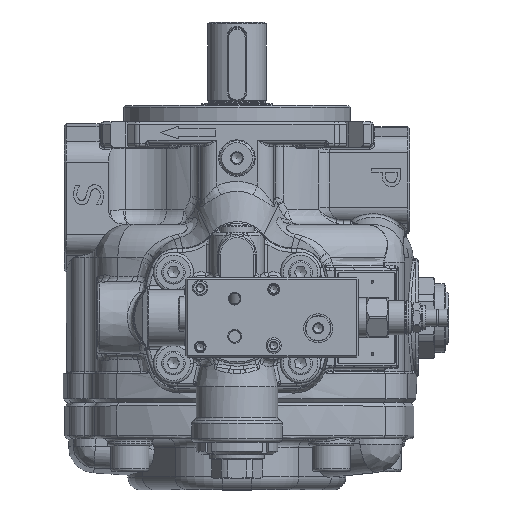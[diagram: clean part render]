
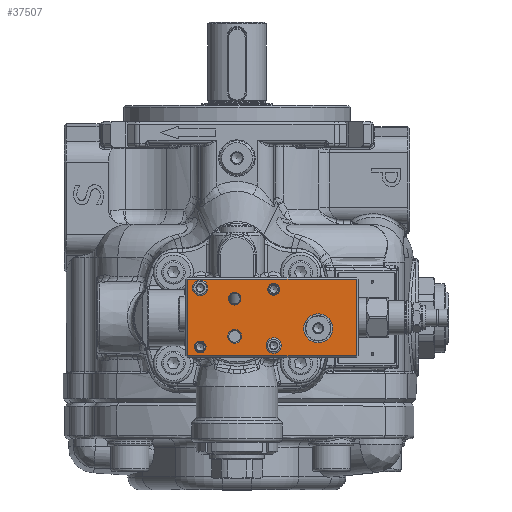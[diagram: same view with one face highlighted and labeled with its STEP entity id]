
A CAD part, top view. The second image highlights one B-rep face of the part: STEP entity #37507.
In plain terms, the highlighted planar face has unit normal (0, 0, 1).
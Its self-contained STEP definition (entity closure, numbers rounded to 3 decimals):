
#1602=FACE_BOUND('',#9343,.T.);
#1603=FACE_BOUND('',#9344,.T.);
#1604=FACE_BOUND('',#9345,.T.);
#1605=FACE_BOUND('',#9346,.T.);
#1606=FACE_BOUND('',#9347,.T.);
#1607=FACE_BOUND('',#9348,.T.);
#1608=FACE_BOUND('',#9349,.T.);
#1914=LINE('',#54981,#4112);
#1915=LINE('',#54983,#4113);
#1916=LINE('',#54985,#4114);
#1917=LINE('',#54986,#4115);
#4112=VECTOR('',#44577,10.);
#4113=VECTOR('',#44578,10.);
#4114=VECTOR('',#44579,10.);
#4115=VECTOR('',#44580,10.);
#6217=PLANE('',#39996);
#7104=FACE_OUTER_BOUND('',#9342,.T.);
#9342=EDGE_LOOP('',(#24690,#24691,#24692,#24693));
#9343=EDGE_LOOP('',(#24694));
#9344=EDGE_LOOP('',(#24695));
#9345=EDGE_LOOP('',(#24696));
#9346=EDGE_LOOP('',(#24697));
#9347=EDGE_LOOP('',(#24698,#24699));
#9348=EDGE_LOOP('',(#24700));
#9349=EDGE_LOOP('',(#24701));
#11493=B_SPLINE_CURVE_WITH_KNOTS('',3,(#54998,#54999,#55000,#55001,#55002,
#55003,#55004,#55005,#55006,#55007,#55008,#55009,#55010,#55011,#55012,#55013,
#55014,#55015,#55016,#55017),.UNSPECIFIED.,.T.,.F.,(4,1,1,1,1,1,1,1,1,1,
1,1,1,1,1,1,1,4),(-2.153,-2.134,-2.077,
-2.,-1.923,-1.846,-1.73,
-1.538,-1.384,-1.231,-0.923,
-0.718,-0.538,-0.308,-0.231,
-0.154,-0.077,0.),.UNSPECIFIED.);
#12449=CIRCLE('',#39570,4.25);
#12687=CIRCLE('',#39997,4.25);
#12688=CIRCLE('',#39998,3.25);
#12689=CIRCLE('',#39999,3.25);
#12690=CIRCLE('',#40000,8.);
#12691=CIRCLE('',#40001,8.);
#12692=CIRCLE('',#40002,3.75);
#14558=VERTEX_POINT('',#53667);
#14915=VERTEX_POINT('',#54979);
#14916=VERTEX_POINT('',#54980);
#14917=VERTEX_POINT('',#54982);
#14918=VERTEX_POINT('',#54984);
#14919=VERTEX_POINT('',#54987);
#14920=VERTEX_POINT('',#54989);
#14921=VERTEX_POINT('',#54991);
#14922=VERTEX_POINT('',#54993);
#14923=VERTEX_POINT('',#54994);
#14924=VERTEX_POINT('',#54997);
#14925=VERTEX_POINT('',#55018);
#18095=EDGE_CURVE('',#14558,#14558,#12449,.T.);
#18601=EDGE_CURVE('',#14915,#14916,#1914,.T.);
#18602=EDGE_CURVE('',#14917,#14915,#1915,.T.);
#18603=EDGE_CURVE('',#14918,#14917,#1916,.T.);
#18604=EDGE_CURVE('',#14916,#14918,#1917,.T.);
#18605=EDGE_CURVE('',#14919,#14919,#12687,.T.);
#18606=EDGE_CURVE('',#14920,#14920,#12688,.T.);
#18607=EDGE_CURVE('',#14921,#14921,#12689,.T.);
#18608=EDGE_CURVE('',#14922,#14923,#12690,.T.);
#18609=EDGE_CURVE('',#14923,#14922,#12691,.T.);
#18610=EDGE_CURVE('',#14924,#14924,#11493,.T.);
#18611=EDGE_CURVE('',#14925,#14925,#12692,.T.);
#24690=ORIENTED_EDGE('',*,*,#18601,.F.);
#24691=ORIENTED_EDGE('',*,*,#18602,.F.);
#24692=ORIENTED_EDGE('',*,*,#18603,.F.);
#24693=ORIENTED_EDGE('',*,*,#18604,.F.);
#24694=ORIENTED_EDGE('',*,*,#18605,.T.);
#24695=ORIENTED_EDGE('',*,*,#18095,.T.);
#24696=ORIENTED_EDGE('',*,*,#18606,.F.);
#24697=ORIENTED_EDGE('',*,*,#18607,.F.);
#24698=ORIENTED_EDGE('',*,*,#18608,.T.);
#24699=ORIENTED_EDGE('',*,*,#18609,.T.);
#24700=ORIENTED_EDGE('',*,*,#18610,.F.);
#24701=ORIENTED_EDGE('',*,*,#18611,.F.);
#37507=ADVANCED_FACE('',(#7104,#1602,#1603,#1604,#1605,#1606,#1607,#1608),
#6217,.T.);
#39570=AXIS2_PLACEMENT_3D('',#53669,#43544,#43545);
#39996=AXIS2_PLACEMENT_3D('',#54978,#44575,#44576);
#39997=AXIS2_PLACEMENT_3D('',#54988,#44581,#44582);
#39998=AXIS2_PLACEMENT_3D('',#54990,#44583,#44584);
#39999=AXIS2_PLACEMENT_3D('',#54992,#44585,#44586);
#40000=AXIS2_PLACEMENT_3D('',#54995,#44587,#44588);
#40001=AXIS2_PLACEMENT_3D('',#54996,#44589,#44590);
#40002=AXIS2_PLACEMENT_3D('',#55019,#44591,#44592);
#43544=DIRECTION('center_axis',(0.,0.,
-1.));
#43545=DIRECTION('ref_axis',(1.,0.,0.));
#44575=DIRECTION('center_axis',(0.,0.,
1.));
#44576=DIRECTION('ref_axis',(-1.,0.,0.));
#44577=DIRECTION('',(-1.,0.,0.));
#44578=DIRECTION('',(0.,-1.,0.));
#44579=DIRECTION('',(1.,0.,0.));
#44580=DIRECTION('',(0.,1.,0.));
#44581=DIRECTION('center_axis',(0.,0.,
-1.));
#44582=DIRECTION('ref_axis',(1.,0.,0.));
#44583=DIRECTION('center_axis',(0.,0.,
1.));
#44584=DIRECTION('ref_axis',(1.,0.,0.));
#44585=DIRECTION('center_axis',(0.,0.,
1.));
#44586=DIRECTION('ref_axis',(1.,0.,0.));
#44587=DIRECTION('center_axis',(0.,0.,
-1.));
#44588=DIRECTION('ref_axis',(-1.,0.,0.));
#44589=DIRECTION('center_axis',(0.,0.,
-1.));
#44590=DIRECTION('ref_axis',(-1.,0.,0.));
#44591=DIRECTION('center_axis',(0.,0.,
1.));
#44592=DIRECTION('ref_axis',(1.,0.,0.));
#53667=CARTESIAN_POINT('',(12.458,-51.722,208.023));
#53669=CARTESIAN_POINT('Origin',(16.708,-51.722,208.023));
#54978=CARTESIAN_POINT('Origin',(15.708,-36.222,208.023));
#54979=CARTESIAN_POINT('',(62.208,-57.222,208.023));
#54980=CARTESIAN_POINT('',(-30.792,-57.222,208.023));
#54981=CARTESIAN_POINT('',(-8.042,-57.222,208.023));
#54982=CARTESIAN_POINT('',(62.208,-15.222,208.023));
#54983=CARTESIAN_POINT('',(62.208,-47.222,208.023));
#54984=CARTESIAN_POINT('',(-30.792,-15.222,208.023));
#54985=CARTESIAN_POINT('',(39.458,-15.222,208.023));
#54986=CARTESIAN_POINT('',(-30.792,-25.222,208.023));
#54987=CARTESIAN_POINT('',(-28.042,-19.972,208.023));
#54988=CARTESIAN_POINT('Origin',(-23.792,-19.972,208.023));
#54989=CARTESIAN_POINT('',(13.458,-20.722,208.023));
#54990=CARTESIAN_POINT('Origin',(16.708,-20.722,208.023));
#54991=CARTESIAN_POINT('',(-27.042,-52.472,208.023));
#54992=CARTESIAN_POINT('Origin',(-23.792,-52.472,208.023));
#54993=CARTESIAN_POINT('',(33.208,-42.222,208.023));
#54994=CARTESIAN_POINT('',(49.208,-42.222,208.023));
#54995=CARTESIAN_POINT('Origin',(41.208,-42.222,208.023));
#54996=CARTESIAN_POINT('Origin',(41.208,-42.222,208.023));
#54997=CARTESIAN_POINT('',(-4.792,-29.389,208.023));
#54998=CARTESIAN_POINT('Ctrl Pts',(-4.792,-29.389,
208.023));
#54999=CARTESIAN_POINT('Ctrl Pts',(-4.749,-29.389,
208.023));
#55000=CARTESIAN_POINT('Ctrl Pts',(-4.583,-29.385,
208.023));
#55001=CARTESIAN_POINT('Ctrl Pts',(-4.18,-29.352,
208.023));
#55002=CARTESIAN_POINT('Ctrl Pts',(-3.422,-29.141,
208.023));
#55003=CARTESIAN_POINT('Ctrl Pts',(-2.651,-28.658,
208.023));
#55004=CARTESIAN_POINT('Ctrl Pts',(-2.004,-27.983,
208.023));
#55005=CARTESIAN_POINT('Ctrl Pts',(-1.393,-26.839,
208.023));
#55006=CARTESIAN_POINT('Ctrl Pts',(-1.302,-25.231,
208.023));
#55007=CARTESIAN_POINT('Ctrl Pts',(-2.027,-23.686,208.023));
#55008=CARTESIAN_POINT('Ctrl Pts',(-3.653,-22.32,
208.023));
#55009=CARTESIAN_POINT('Ctrl Pts',(-6.121,-22.318,
208.023));
#55010=CARTESIAN_POINT('Ctrl Pts',(-7.866,-24.019,
208.023));
#55011=CARTESIAN_POINT('Ctrl Pts',(-8.395,-26.077,
208.023));
#55012=CARTESIAN_POINT('Ctrl Pts',(-7.86,-27.697,
208.023));
#55013=CARTESIAN_POINT('Ctrl Pts',(-6.935,-28.657,
208.023));
#55014=CARTESIAN_POINT('Ctrl Pts',(-6.166,-29.142,
208.023));
#55015=CARTESIAN_POINT('Ctrl Pts',(-5.335,-29.371,208.023));
#55016=CARTESIAN_POINT('Ctrl Pts',(-4.963,-29.389,
208.023));
#55017=CARTESIAN_POINT('Ctrl Pts',(-4.792,-29.389,
208.023));
#55018=CARTESIAN_POINT('',(-8.542,-46.622,208.023));
#55019=CARTESIAN_POINT('Origin',(-4.792,-46.622,208.023));
